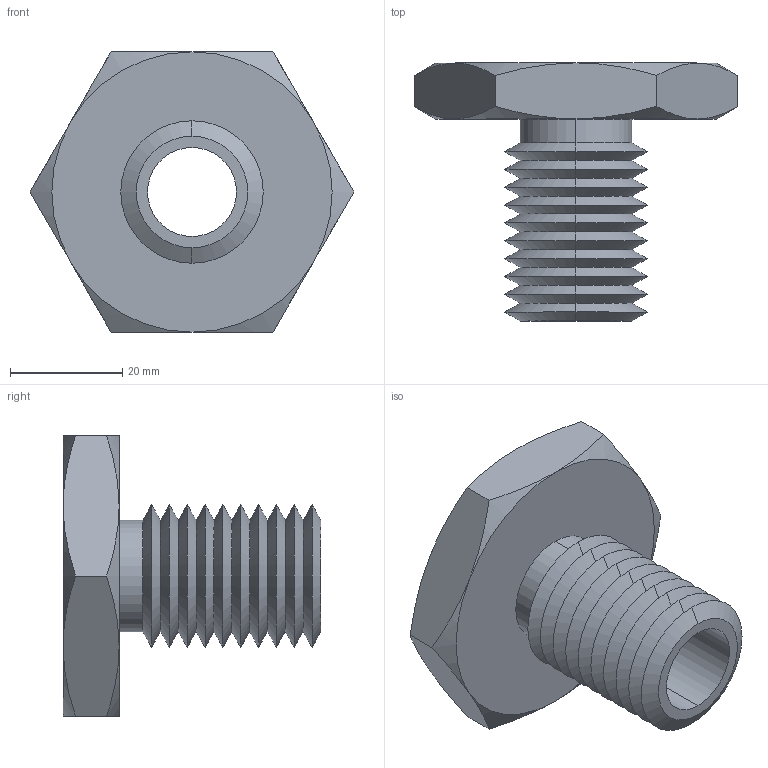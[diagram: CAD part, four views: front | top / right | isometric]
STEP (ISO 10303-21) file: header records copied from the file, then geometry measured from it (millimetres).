
FILE_DESCRIPTION (( 'STEP AP203' ), '1' );
FILE_NAME ('63302.W5100_0,62 UNC-11.step', '2013-12-08T11:40:47', ( 'User' ), ( '' ), 'SwSTEP 2.0', 'SolidWorks 2009', '' );
FILE_SCHEMA (( 'CONFIG_CONTROL_DESIGN' ));
Length unit declared in the file: millimetre
Products named in the file (1): 63302.W5100_0,62 UNC-11
Bounding box: 57.73 x 46 x 50 mm (x, y, z)
Volume: 26299.6 mm3; surface area: 12484.7 mm2
Topology: 1 solids, 1 shells, 67 faces, 138 edges, 74 vertices
Faces by surface type: cone 54, plane 9, cylinder 4
Entity records: 1939 total; most frequent: CARTESIAN_POINT 464, DIRECTION 312, ORIENTED_EDGE 276, EDGE_CURVE 138, AXIS2_PLACEMENT_3D 130, VERTEX_POINT 74, EDGE_LOOP 70, ADVANCED_FACE 67
